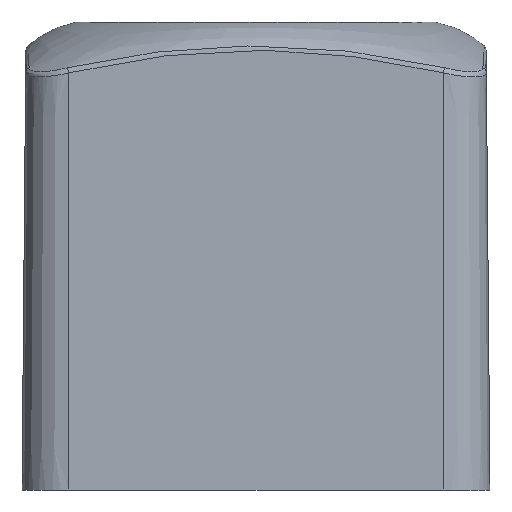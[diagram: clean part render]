
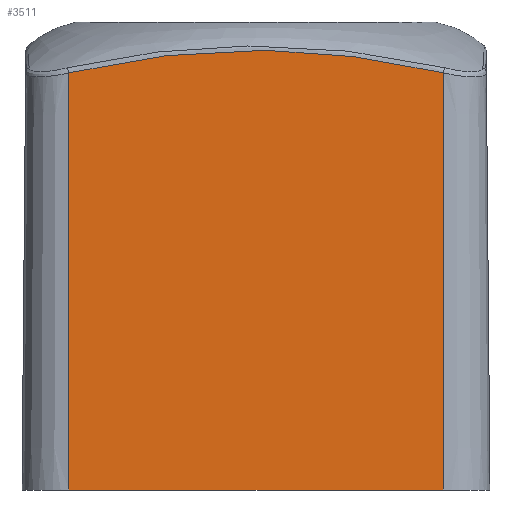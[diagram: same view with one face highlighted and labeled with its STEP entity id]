
A CAD part, left-side view. The second image highlights one B-rep face of the part: STEP entity #3511.
In plain terms, the highlighted planar face has unit normal (-1, 0, 0.009).
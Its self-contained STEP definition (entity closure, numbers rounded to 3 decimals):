
#956=CARTESIAN_POINT('',(0.311,36.0,35.658));
#957=VERTEX_POINT('',#956);
#1051=CARTESIAN_POINT('',(0.311,4.0,35.661));
#1052=VERTEX_POINT('',#1051);
#1084=CARTESIAN_POINT('',(0.311,4.0,35.661));
#1085=CARTESIAN_POINT('',(0.313,4.651,35.836));
#1086=CARTESIAN_POINT('',(0.314,5.311,35.971));
#1087=CARTESIAN_POINT('',(0.316,6.63,36.237));
#1088=CARTESIAN_POINT('',(0.317,7.291,36.365));
#1089=CARTESIAN_POINT('',(0.32,9.281,36.716));
#1090=CARTESIAN_POINT('',(0.322,10.612,36.916));
#1091=CARTESIAN_POINT('',(0.326,14.616,37.407));
#1092=CARTESIAN_POINT('',(0.328,17.31,37.587));
#1093=CARTESIAN_POINT('',(0.328,22.687,37.587));
#1094=CARTESIAN_POINT('',(0.326,25.379,37.407));
#1095=CARTESIAN_POINT('',(0.322,29.387,36.914));
#1096=CARTESIAN_POINT('',(0.32,30.72,36.714));
#1097=CARTESIAN_POINT('',(0.317,32.709,36.362));
#1098=CARTESIAN_POINT('',(0.316,33.37,36.235));
#1099=CARTESIAN_POINT('',(0.314,34.689,35.968));
#1100=CARTESIAN_POINT('',(0.313,35.349,35.834));
#1101=CARTESIAN_POINT('',(0.311,36.0,35.658));
#1102=B_SPLINE_CURVE_WITH_KNOTS('',3,(#1084,#1085,#1086,#1087,#1088,#1089,#1090,#1091,#1092,#1093,#1094,#1095,#1096,#1097,#1098,#1099,#1100,#1101),.UNSPECIFIED.,.F.,.U.,(4,2,2,2,2,2,2,2,4),(0.0,0.063,0.125,0.25,0.5,0.75,0.875,0.938,1.0),.UNSPECIFIED.);
#1103=EDGE_CURVE('',#1052,#957,#1102,.T.);
#3270=CARTESIAN_POINT('',(0.,4.0,0.0));
#3271=VERTEX_POINT('',#3270);
#3281=CARTESIAN_POINT('',(0.,36.0,0.0));
#3282=VERTEX_POINT('',#3281);
#3283=CARTESIAN_POINT('',(0.,36.0,0.0));
#3284=DIRECTION('',(0.0,-1.0,0.0));
#3285=VECTOR('',#3284,32.0);
#3286=LINE('',#3283,#3285);
#3287=EDGE_CURVE('',#3282,#3271,#3286,.T.);
#3490=CARTESIAN_POINT('',(0.,0.0,0.));
#3491=DIRECTION('',(-1.,0.,0.009));
#3492=DIRECTION('',(0.009,0.0,1.));
#3493=AXIS2_PLACEMENT_3D('',#3490,#3491,#3492);
#3494=PLANE('',#3493);
#3495=CARTESIAN_POINT('',(0.311,4.0,35.661));
#3496=DIRECTION('',(-0.009,0.0,-1.));
#3497=VECTOR('',#3496,35.662);
#3498=LINE('',#3495,#3497);
#3499=EDGE_CURVE('',#1052,#3271,#3498,.T.);
#3500=ORIENTED_EDGE('',*,*,#3499,.F.);
#3501=ORIENTED_EDGE('',*,*,#1103,.T.);
#3502=CARTESIAN_POINT('',(0.,36.0,0.0));
#3503=DIRECTION('',(0.009,0.0,1.));
#3504=VECTOR('',#3503,35.66);
#3505=LINE('',#3502,#3504);
#3506=EDGE_CURVE('',#3282,#957,#3505,.T.);
#3507=ORIENTED_EDGE('',*,*,#3506,.F.);
#3508=ORIENTED_EDGE('',*,*,#3287,.T.);
#3509=EDGE_LOOP('',(#3500,#3501,#3507,#3508));
#3510=FACE_OUTER_BOUND('',#3509,.T.);
#3511=ADVANCED_FACE('',(#3510),#3494,.T.);
